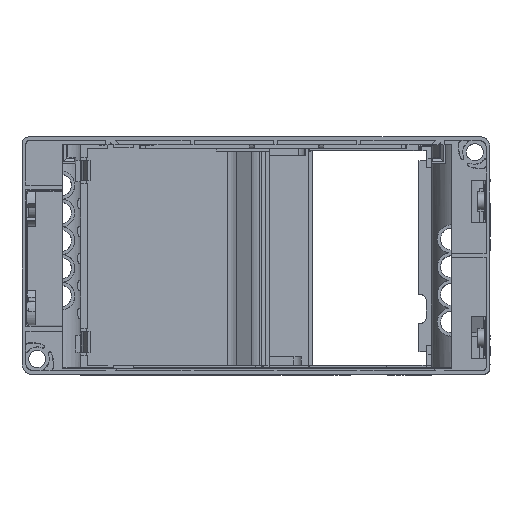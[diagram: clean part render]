
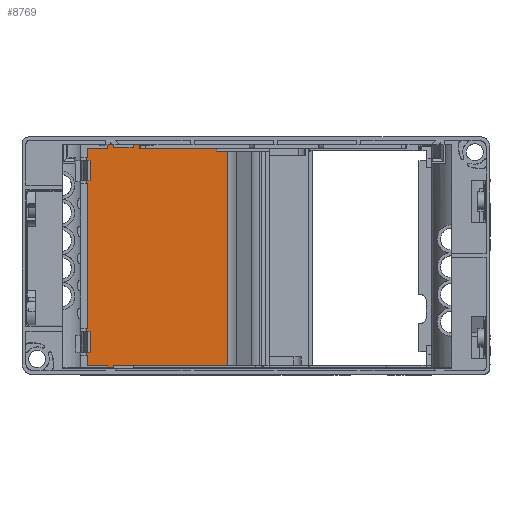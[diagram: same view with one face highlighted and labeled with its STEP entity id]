
A CAD part, top view. The second image highlights one B-rep face of the part: STEP entity #8769.
In plain terms, the highlighted planar face has unit normal (0, 0, 1).
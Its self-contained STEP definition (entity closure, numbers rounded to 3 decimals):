
#7284 = EDGE_LOOP ( 'NONE', ( #19131, #19134, #19133, #19135 ) ) ;
#8769 = ADVANCED_FACE ( 'NONE', ( #72892 ), #59603, .T. ) ;
#14546 = EDGE_CURVE ( 'NONE', #17505, #17511, #80271, .T. ) ;
#14672 = EDGE_CURVE ( 'NONE', #17511, #17586, #81251, .T. ) ;
#14673 = EDGE_CURVE ( 'NONE', #17586, #17587, #81256, .T. ) ;
#14674 = EDGE_CURVE ( 'NONE', #17505, #17587, #81261, .T. ) ;
#17505 = VERTEX_POINT ( 'NONE', #111882 ) ;
#17511 = VERTEX_POINT ( 'NONE', #111888 ) ;
#17586 = VERTEX_POINT ( 'NONE', #111963 ) ;
#17587 = VERTEX_POINT ( 'NONE', #111964 ) ;
#19131 = ORIENTED_EDGE ( 'NONE', *, *, #14672, .T. ) ;
#19133 = ORIENTED_EDGE ( 'NONE', *, *, #14674, .F. ) ;
#19134 = ORIENTED_EDGE ( 'NONE', *, *, #14673, .T. ) ;
#19135 = ORIENTED_EDGE ( 'NONE', *, *, #14546, .T. ) ;
#59603 = PLANE ( 'NONE',  #72901 ) ;
#59604 = CARTESIAN_POINT ( 'NONE',  ( -37.402, 0., -26.6 ) ) ;
#59607 = DIRECTION ( 'NONE',  ( 0., 0., 1. ) ) ;
#59608 = DIRECTION ( 'NONE',  ( 1., 0., 0. ) ) ;
#72892 = FACE_OUTER_BOUND ( 'NONE', #7284, .T. ) ;
#72901 = AXIS2_PLACEMENT_3D ( 'NONE', #59604, #59607, #59608 ) ;
#79397 = VECTOR ( 'NONE', #80273, 1000. ) ;
#79513 = VECTOR ( 'NONE', #81254, 1000. ) ;
#79514 = VECTOR ( 'NONE', #81260, 1000. ) ;
#79515 = VECTOR ( 'NONE', #81265, 1000. ) ;
#80271 = LINE ( 'NONE', #80272, #79397 ) ;
#80272 = CARTESIAN_POINT ( 'NONE',  ( -37.402, -34., -26.6 ) ) ;
#80273 = DIRECTION ( 'NONE',  ( 1., 0., 0. ) ) ;
#81251 = LINE ( 'NONE', #81252, #79513 ) ;
#81252 = CARTESIAN_POINT ( 'NONE',  ( -14.804, 0., -26.6 ) ) ;
#81254 = DIRECTION ( 'NONE',  ( 0., 1., 0. ) ) ;
#81256 = LINE ( 'NONE', #81258, #79514 ) ;
#81258 = CARTESIAN_POINT ( 'NONE',  ( -10.503, 34., -26.6 ) ) ;
#81260 = DIRECTION ( 'NONE',  ( -1., 0., 0. ) ) ;
#81261 = LINE ( 'NONE', #81263, #79515 ) ;
#81263 = CARTESIAN_POINT ( 'NONE',  ( -60., 0., -26.6 ) ) ;
#81265 = DIRECTION ( 'NONE',  ( 0., 1., 0. ) ) ;
#111882 = CARTESIAN_POINT ( 'NONE',  ( -60., -34., -26.6 ) ) ;
#111888 = CARTESIAN_POINT ( 'NONE',  ( -14.804, -34., -26.6 ) ) ;
#111963 = CARTESIAN_POINT ( 'NONE',  ( -14.804, 34., -26.6 ) ) ;
#111964 = CARTESIAN_POINT ( 'NONE',  ( -60., 34., -26.6 ) ) ;
